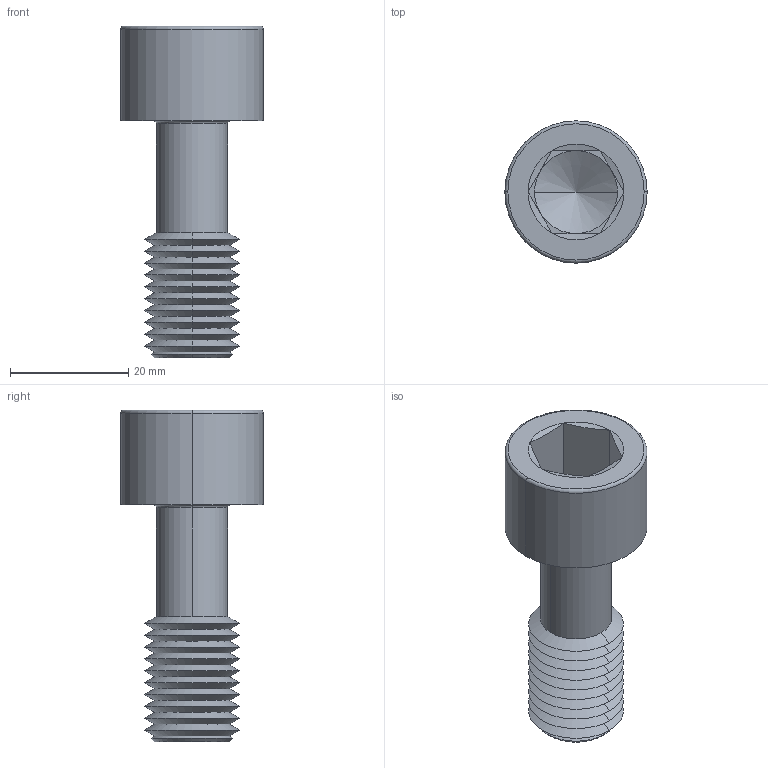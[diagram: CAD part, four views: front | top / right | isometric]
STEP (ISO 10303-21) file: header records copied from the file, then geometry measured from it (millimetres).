
FILE_DESCRIPTION (( 'STEP AP203' ), '1' );
FILE_NAME ('P0154.160-040-BL.step', '2024-06-17T11:38:15', ( '' ), ( '' ), 'SwSTEP 2.0', 'SolidWorks 2019', '' );
FILE_SCHEMA (( 'CONFIG_CONTROL_DESIGN' ));
Length unit declared in the file: millimetre
Products named in the file (1): P0154.160-040-BL
Bounding box: 24 x 24 x 56 mm (x, y, z)
Volume: 10148.1 mm3; surface area: 5375.4 mm2
Topology: 1 solids, 1 shells, 75 faces, 152 edges, 79 vertices
Faces by surface type: cone 52, plane 15, torus 4, cylinder 4
Entity records: 1991 total; most frequent: DIRECTION 372, CARTESIAN_POINT 335, ORIENTED_EDGE 300, AXIS2_PLACEMENT_3D 152, EDGE_CURVE 150, VERTEX_POINT 79, EDGE_LOOP 77, CIRCLE 76
